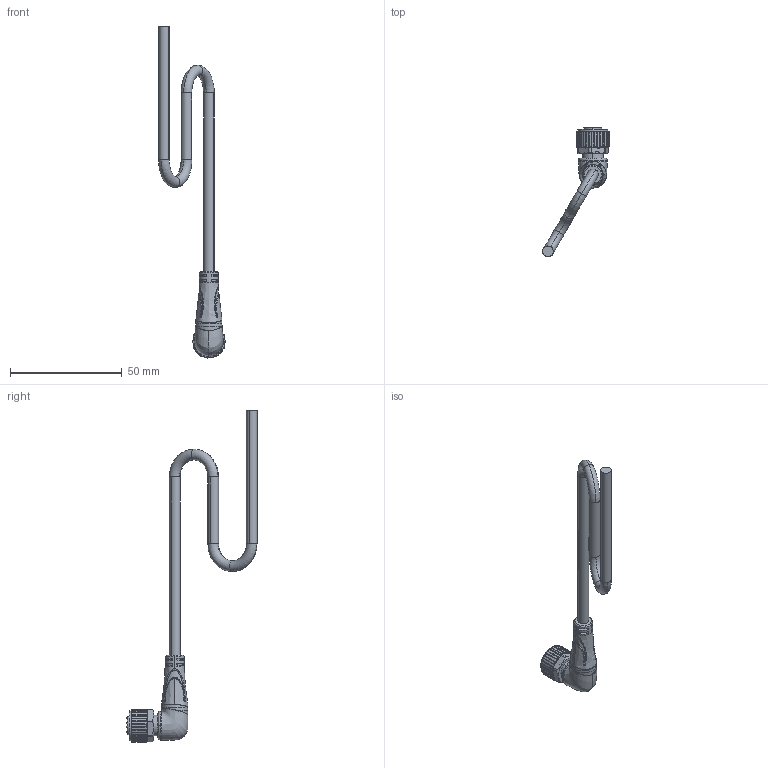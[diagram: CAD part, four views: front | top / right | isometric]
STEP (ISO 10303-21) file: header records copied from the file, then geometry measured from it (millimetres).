
FILE_DESCRIPTION (( 'STEP AP214' ), '1' );
FILE_NAME ('M12俔芛4P譫傷.STEP', '2024-12-20T10:13:00', ( 'Windows User' ), ( 'P R C' ), 'SwSTEP 2.0', 'SolidWorks 2023', '' );
FILE_SCHEMA (( 'AUTOMOTIVE_DESIGN' ));
Length unit declared in the file: millimetre
Products named in the file (7): M12弯头4P母端; SD1100803-M12滚花螺母（内螺纹对边13）-A0; 导线_φ4.8; M12-90°包胶; SD2008750-M12-4P母端插座-B0; O型圈10×7×1.5; SD1705289-M12母端插针-A1
Assembly tree (9 placements, depth 2):
  M12弯头4P母端
    SD1100803-M12滚花螺母（内螺纹对边13）-A0
    SD1705289-M12母端插针-A1  x4
    SD2008750-M12-4P母端插座-B0
    导线_φ4.8
    M12-90°包胶
    O型圈10×7×1.5
Bounding box: 29.94 x 58.36 x 148.85 mm (x, y, z)
Volume: 9381.6 mm3; surface area: 8662 mm2
Topology: 9 solids, 9 shells, 1768 faces, 4774 edges, 3022 vertices
Faces by surface type: plane 665, cylinder 587, bspline 244, cone 218, torus 48, sphere 6
Entity records: 53926 total; most frequent: CARTESIAN_POINT 28324, ORIENTED_EDGE 5840, DIRECTION 4680, EDGE_CURVE 2920, VERTEX_POINT 1861, AXIS2_PLACEMENT_3D 1771, EDGE_LOOP 1141, VECTOR 1138
